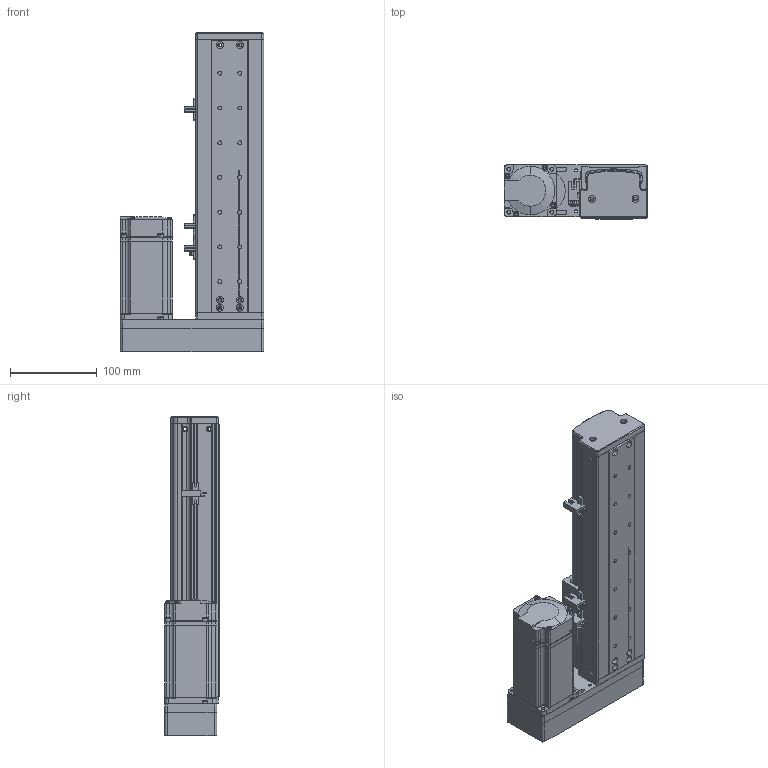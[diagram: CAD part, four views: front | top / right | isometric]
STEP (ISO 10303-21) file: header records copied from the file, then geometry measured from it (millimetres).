
FILE_DESCRIPTION (( 'STEP AP214' ), '1' );
FILE_NAME ('KSD75S-S160-MR-CM.STEP', '2019-10-18T07:12:39', ( '微软用户' ), ( '微软中国' ), 'SwSTEP 2.0', 'SolidWorks 2014', '' );
FILE_SCHEMA (( 'AUTOMOTIVE_DESIGN' ));
Length unit declared in the file: millimetre
Products named in the file (13): MHMD042G1CA_2_03; 75宽模组保护罩左右折; 75宽马达安装板连板左右折丝杆; 覜茼え100遵圉猾敕; U倰嫖萇EEㄜSX672; 綴傷啣 ; ヶ傷啣; 75裔啣-160俴最; 75遵耀郪耜啣-160俴最; 75遵賑雄釱; MGW15H賑寢160俴最 ; MGW15H賑寢160俴最; KSD75S-S160-MR-CM
Assembly tree (15 placements, depth 3):
  KSD75S-S160-MR-CM
    MGW15H賑寢160俴最 
      MGW15H賑寢160俴最
    75遵賑雄釱
    75遵耀郪耜啣-160俴最  x2
    75裔啣-160俴最
    ヶ傷啣
    綴傷啣 
    U倰嫖萇EEㄜSX672  x3
    覜茼え100遵圉猾敕
    75宽马达安装板连板左右折丝杆
    75宽模组保护罩左右折
    MHMD042G1CA_2_03
Bounding box: 165 x 63 x 367.5 mm (x, y, z)
Volume: 612845.1 mm3; surface area: 383586.6 mm2
Topology: 13 solids, 14 shells, 1403 faces, 3994 edges, 2605 vertices
Faces by surface type: cylinder 643, plane 613, cone 129, bspline 18
Entity records: 45070 total; most frequent: CARTESIAN_POINT 8618, DIRECTION 6644, ORIENTED_EDGE 6268, EDGE_CURVE 3205, AXIS2_PLACEMENT_3D 2410, VERTEX_POINT 2123, VECTOR 1824, LINE 1824
